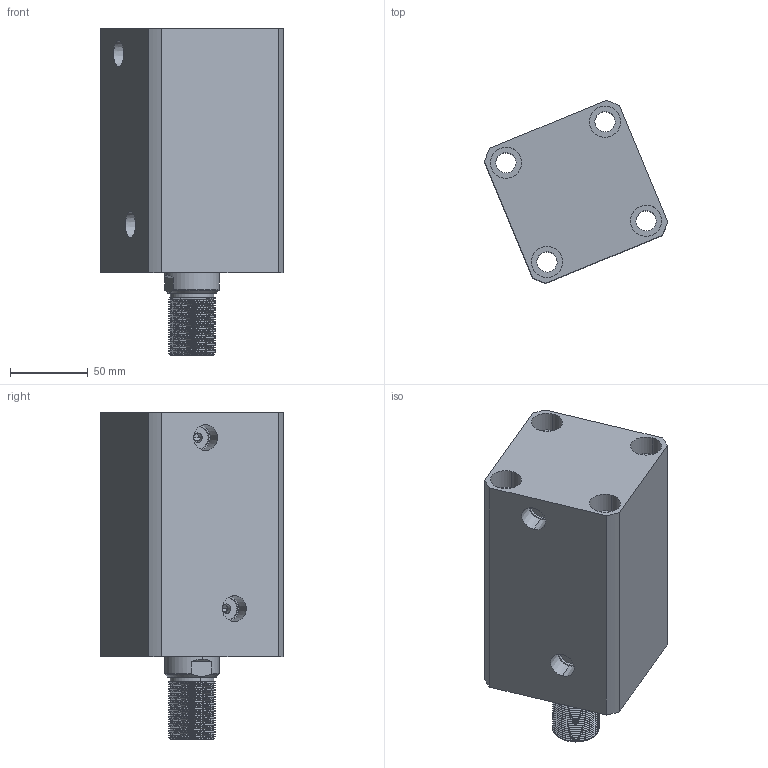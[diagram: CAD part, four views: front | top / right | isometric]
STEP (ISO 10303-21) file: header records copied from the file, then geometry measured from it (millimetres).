
FILE_DESCRIPTION (( 'STEP AP214' ), '1' );
FILE_NAME ('chtb-sd63x90w_asm.STEP', '2018-05-19T02:07:49', ( 'Windows' ), ( 'Microsoft' ), 'SwSTEP 2.0', 'SolidWorks 2015', '' );
FILE_SCHEMA (( 'AUTOMOTIVE_DESIGN' ));
Length unit declared in the file: millimetre
Products named in the file (4): CHTB63X90WHSG; CHTB63X90NBT; CHTB-63QG; chtb-sd63x90w_asm
Assembly tree (3 placements, depth 2):
  chtb-sd63x90w_asm
    CHTB-63QG
    CHTB63X90NBT
    CHTB63X90WHSG
Bounding box: 117.81 x 117.81 x 210 mm (x, y, z)
Volume: 1112611.2 mm3; surface area: 182789.1 mm2
Topology: 3 solids, 3 shells, 219 faces, 625 edges, 427 vertices
Faces by surface type: cylinder 150, plane 36, bspline 14, cone 13, torus 6
Entity records: 22208 total; most frequent: CARTESIAN_POINT 16953, ORIENTED_EDGE 1242, DIRECTION 881, EDGE_CURVE 621, VERTEX_POINT 427, AXIS2_PLACEMENT_3D 346, EDGE_LOOP 252, FACE_OUTER_BOUND 219
